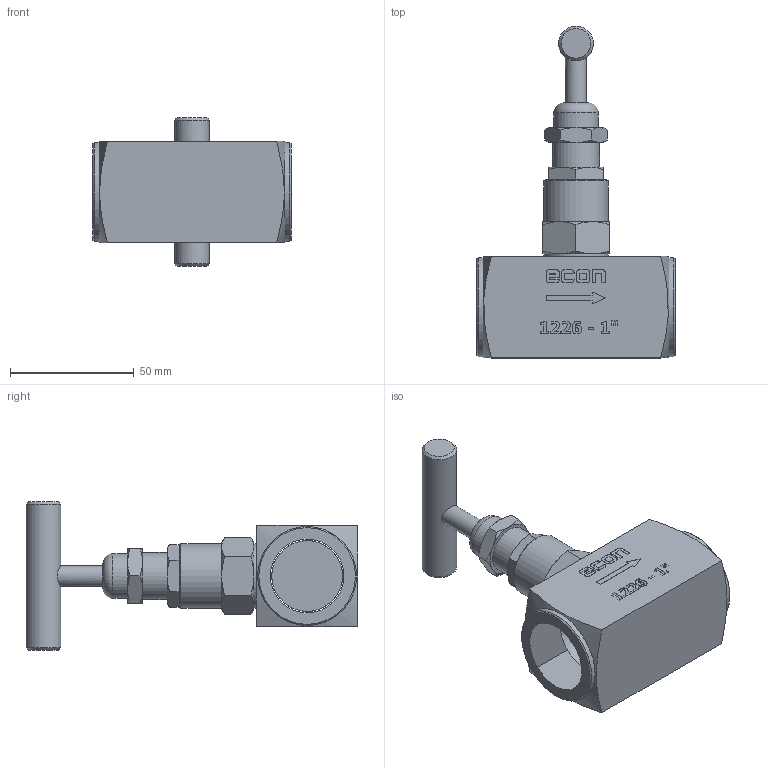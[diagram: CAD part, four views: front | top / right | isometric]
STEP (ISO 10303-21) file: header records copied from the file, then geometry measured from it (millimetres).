
FILE_DESCRIPTION(/* description */ ('Eriks item no: 12035755'),/* implementation_level */ '2;1');
FILE_NAME(/* name */ '1226-025-PN400.stp',/* time_stamp */ '2024-02-15T12:38:57+01:00',/* author */ ('roger.thijssen'),/* organization */ (''),/* preprocessor_version */ 'ST-DEVELOPER v19.2',/* originating_system */ 'Autodesk Inventor 2024',/* authorisation */ '');
FILE_SCHEMA (('AUTOMOTIVE_DESIGN { 1 0 10303 214 3 1 1 }'));
Length unit declared in the file: millimetre
Products named in the file (1): Needle valve, 1226-025-PN400
Bounding box: 80 x 134 x 60 mm (x, y, z)
Volume: 140033.4 mm3; surface area: 27958.2 mm2
Topology: 1 solids, 1 shells, 251 faces, 629 edges, 408 vertices
Faces by surface type: plane 147, bspline 41, cone 39, cylinder 23, torus 1
Full cylindrical faces by diameter (mm): 8.5 x1, 14 x1, 18 x1, 19 x1, 26 x2, 28.575 x2, 40 x2
Entity records: 8030 total; most frequent: CARTESIAN_POINT 2149, ORIENTED_EDGE 1258, DIRECTION 980, EDGE_CURVE 629, VERTEX_POINT 408, LINE 368, VECTOR 368, AXIS2_PLACEMENT_3D 306
